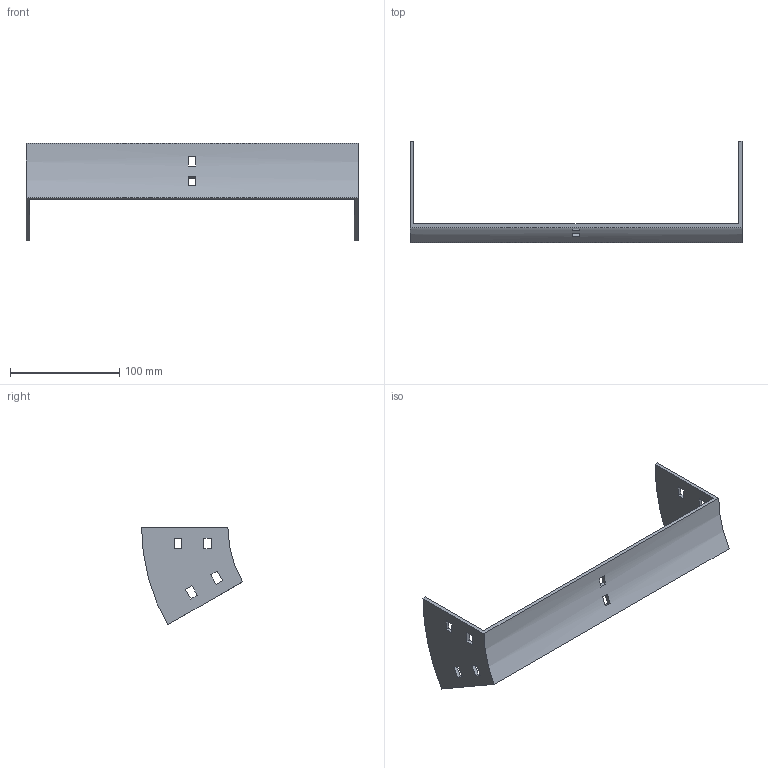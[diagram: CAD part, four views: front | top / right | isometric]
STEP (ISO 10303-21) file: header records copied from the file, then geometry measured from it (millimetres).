
FILE_DESCRIPTION (( 'STEP AP214' ), '1' );
FILE_NAME ('35B1C300.step', '2025-02-21T09:26:31', ( '' ), ( '' ), 'SwSTEP 2.0', 'SolidWorks 2023', '' );
FILE_SCHEMA (( 'AUTOMOTIVE_DESIGN' ));
Length unit declared in the file: millimetre
Products named in the file (1): 35B1C300
Bounding box: 304 x 92.4 x 89.5 mm (x, y, z)
Volume: 93397.7 mm3; surface area: 58376.8 mm2
Topology: 1 solids, 1 shells, 50 faces, 144 edges, 96 vertices
Faces by surface type: plane 46, cylinder 4
Entity records: 1687 total; most frequent: CARTESIAN_POINT 291, ORIENTED_EDGE 288, DIRECTION 262, EDGE_CURVE 144, VECTOR 128, LINE 128, VERTEX_POINT 96, EDGE_LOOP 70
